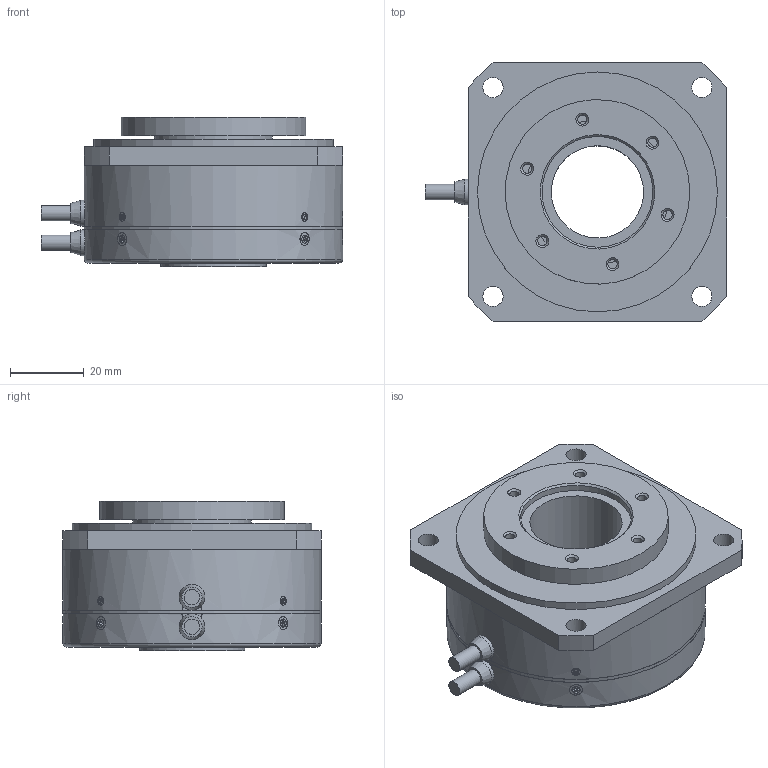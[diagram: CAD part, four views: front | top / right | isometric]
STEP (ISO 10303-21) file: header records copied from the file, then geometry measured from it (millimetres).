
FILE_DESCRIPTION(('STEP AP214'),'1');
FILE_NAME('MDH-7006.stp','2017-10-11T11:12:52',(' '),(' '),'Spatial InterOp 3D',' ',' ');
FILE_SCHEMA(('automotive_design'));
Length unit declared in the file: millimetre
Products named in the file (11): オイルシール; ケーブル; タッピングネジ M1.4x2.2; サラコネジ F3 M2x2.5; ﾌﾗﾝｼﾞ付深溝ﾍﾞｱﾘﾝｸﾞ F6806 2RU; ブッシュ; カバー; ベース; シャフト_7006; ケース_7006
Assembly tree (19 placements, depth 2):
  (unnamed)
    オイルシール
    ケーブル  x2
    タッピングネジ M1.4x2.2  x4
    サラコネジ F3 M2x2.5  x4
    ﾌﾗﾝｼﾞ付深溝ﾍﾞｱﾘﾝｸﾞ F6806 2RU  x2
    ブッシュ  x2
    カバー
    ベース
    シャフト_7006
    ケース_7006
Bounding box: 81.61 x 70 x 40.5 mm (x, y, z)
Volume: 61762.2 mm3; surface area: 60145.7 mm2
Topology: 19 solids, 21 shells, 411 faces, 957 edges, 622 vertices
Faces by surface type: plane 226, cylinder 133, cone 44, torus 4, bspline 4
Full cylindrical faces by diameter (mm): 1.4 x8, 1.5 x4, 1.6 x12, 2 x8, 2.2 x4, 2.3 x4, 2.5 x6, 3.5 x4, 4.2 x4, 5.5 x4, 7 x2, 25 x1, 28.5 x2, 30 x5, 30.5 x1, 32 x1, 33 x6, 35 x2, 36.5 x1, 39 x6, 42 x4, 45 x3, 45.5 x1, 46 x1, 50 x1, 65 x2, 66 x1, 68 x2, 70 x3
Entity records: 9333 total; most frequent: CARTESIAN_POINT 2047, DIRECTION 1079, ORIENTED_EDGE 836, AXIS2_PLACEMENT_3D 444, EDGE_LOOP 436, EDGE_CURVE 418, VERTEX_POINT 334, FACE_OUTER_BOUND 323
